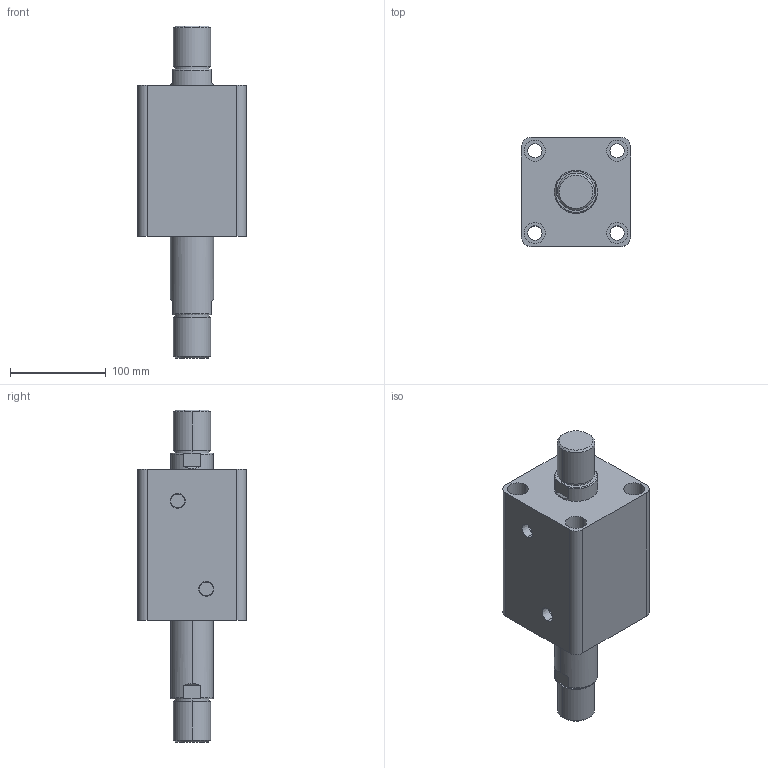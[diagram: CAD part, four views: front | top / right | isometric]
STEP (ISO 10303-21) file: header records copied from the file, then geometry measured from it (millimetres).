
FILE_DESCRIPTION (( 'STEP AP203' ), '1' );
FILE_NAME ('HTB-SW80-65W.STEP', '2019-10-07T10:25:04', ( '微软用户' ), ( '微软中国' ), 'SwSTEP 2.0', 'SolidWorks 2012', '' );
FILE_SCHEMA (( 'CONFIG_CONTROL_DESIGN' ));
Length unit declared in the file: millimetre
Products named in the file (3): HTB-SW80-65W; HTB-SW80-65W活塞杆; HTB-SW80-65掛极
Assembly tree (2 placements, depth 2):
  HTB-SW80-65W
    HTB-SW80-65掛极
    HTB-SW80-65W活塞杆
Bounding box: 114 x 114 x 347 mm (x, y, z)
Volume: 1938120.1 mm3; surface area: 224861.8 mm2
Topology: 2 solids, 2 shells, 108 faces, 240 edges, 156 vertices
Faces by surface type: cylinder 52, plane 36, torus 12, cone 8
Entity records: 3449 total; most frequent: CARTESIAN_POINT 629, DIRECTION 586, ORIENTED_EDGE 480, AXIS2_PLACEMENT_3D 249, EDGE_CURVE 240, VERTEX_POINT 156, EDGE_LOOP 138, CIRCLE 136
